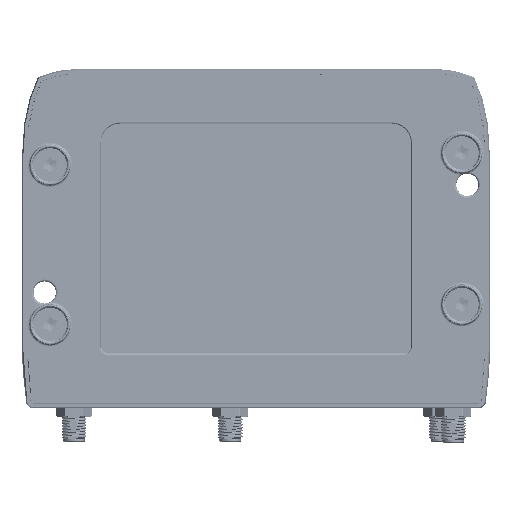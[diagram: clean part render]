
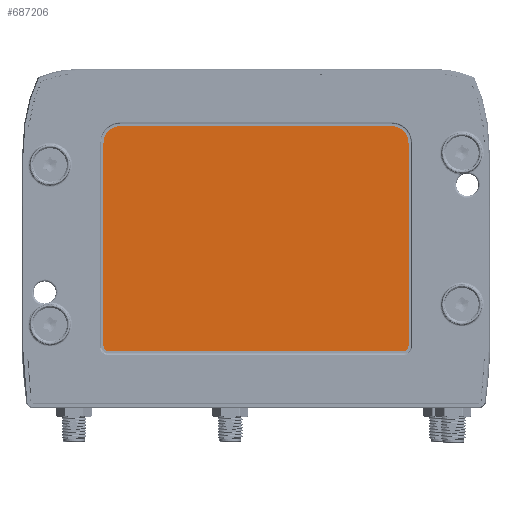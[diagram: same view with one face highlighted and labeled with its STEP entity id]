
A CAD part, front view. The second image highlights one B-rep face of the part: STEP entity #687206.
In plain terms, the highlighted planar face has unit normal (0, -1, 0).
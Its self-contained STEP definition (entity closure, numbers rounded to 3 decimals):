
#686963=CARTESIAN_POINT('',(37.,-32.75,15.5));
#686964=DIRECTION('',(0.,1.,0.));
#686965=DIRECTION('',(1.,0.,0.));
#686966=AXIS2_PLACEMENT_3D('',#686963,#686964,#686965);
#686971=DIRECTION('',(-1.,0.,0.));
#686972=VECTOR('',#686971,74.);
#686973=CARTESIAN_POINT('',(37.,-32.75,14.25));
#686974=LINE('',#686973,#686972);
#686978=CARTESIAN_POINT('',(-37.,-32.75,15.5));
#686979=DIRECTION('',(0.,1.,0.));
#686980=DIRECTION('',(0.,0.,-1.));
#686981=AXIS2_PLACEMENT_3D('',#686978,#686979,#686980);
#686986=DIRECTION('',(0.,0.,1.));
#686987=VECTOR('',#686986,51.);
#686988=CARTESIAN_POINT('',(-38.25,-32.75,15.5));
#686989=LINE('',#686988,#686987);
#686993=CARTESIAN_POINT('',(-34.,-32.75,66.5));
#686994=DIRECTION('',(0.,1.,0.));
#686995=DIRECTION('',(-1.,0.,0.));
#686996=AXIS2_PLACEMENT_3D('',#686993,#686994,#686995);
#687001=DIRECTION('',(1.,0.,0.));
#687002=VECTOR('',#687001,68.);
#687003=CARTESIAN_POINT('',(-34.,-32.75,70.75));
#687004=LINE('',#687003,#687002);
#687008=CARTESIAN_POINT('',(34.,-32.75,66.5));
#687009=DIRECTION('',(0.,1.,0.));
#687010=DIRECTION('',(0.,0.,1.));
#687011=AXIS2_PLACEMENT_3D('',#687008,#687009,#687010);
#687016=DIRECTION('',(0.,0.,-1.));
#687017=VECTOR('',#687016,51.);
#687018=CARTESIAN_POINT('',(38.25,-32.75,66.5));
#687019=LINE('',#687018,#687017);
#687039=CARTESIAN_POINT('',(38.25,-32.75,15.5));
#687040=CARTESIAN_POINT('',(37.,-32.75,14.25));
#687041=VERTEX_POINT('',#687039);
#687042=VERTEX_POINT('',#687040);
#687043=CARTESIAN_POINT('',(-37.,-32.75,14.25));
#687044=VERTEX_POINT('',#687043);
#687045=CARTESIAN_POINT('',(-38.25,-32.75,15.5));
#687046=VERTEX_POINT('',#687045);
#687047=CARTESIAN_POINT('',(-38.25,-32.75,66.5));
#687048=VERTEX_POINT('',#687047);
#687049=CARTESIAN_POINT('',(-34.,-32.75,70.75));
#687050=VERTEX_POINT('',#687049);
#687051=CARTESIAN_POINT('',(34.,-32.75,70.75));
#687052=VERTEX_POINT('',#687051);
#687053=CARTESIAN_POINT('',(38.25,-32.75,66.5));
#687054=VERTEX_POINT('',#687053);
#687191=CARTESIAN_POINT('',(0.,-32.75,0.));
#687192=DIRECTION('',(0.,1.,0.));
#687193=DIRECTION('',(0.,0.,-1.));
#687194=AXIS2_PLACEMENT_3D('',#687191,#687192,#687193);
#687195=PLANE('',#687194);
#687196=ORIENTED_EDGE('',*,*,#687087,.T.);
#687197=ORIENTED_EDGE('',*,*,#687102,.T.);
#687198=ORIENTED_EDGE('',*,*,#687116,.T.);
#687199=ORIENTED_EDGE('',*,*,#687130,.T.);
#687200=ORIENTED_EDGE('',*,*,#687144,.T.);
#687201=ORIENTED_EDGE('',*,*,#687158,.T.);
#687202=ORIENTED_EDGE('',*,*,#687172,.T.);
#687203=ORIENTED_EDGE('',*,*,#687185,.T.);
#687204=EDGE_LOOP('',(#687196,#687197,#687198,#687199,#687200,#687201,#687202,
#687203));
#687205=FACE_OUTER_BOUND('',#687204,.F.);
#686967=CIRCLE('',#686966,1.25);
#686982=CIRCLE('',#686981,1.25);
#686997=CIRCLE('',#686996,4.25);
#687012=CIRCLE('',#687011,4.25);
#687087=EDGE_CURVE('',#687041,#687042,#686967,.T.);
#687102=EDGE_CURVE('',#687042,#687044,#686974,.T.);
#687116=EDGE_CURVE('',#687044,#687046,#686982,.T.);
#687130=EDGE_CURVE('',#687046,#687048,#686989,.T.);
#687144=EDGE_CURVE('',#687048,#687050,#686997,.T.);
#687158=EDGE_CURVE('',#687050,#687052,#687004,.T.);
#687172=EDGE_CURVE('',#687052,#687054,#687012,.T.);
#687185=EDGE_CURVE('',#687054,#687041,#687019,.T.);
#687206=ADVANCED_FACE('',(#687205),#687195,.F.);
